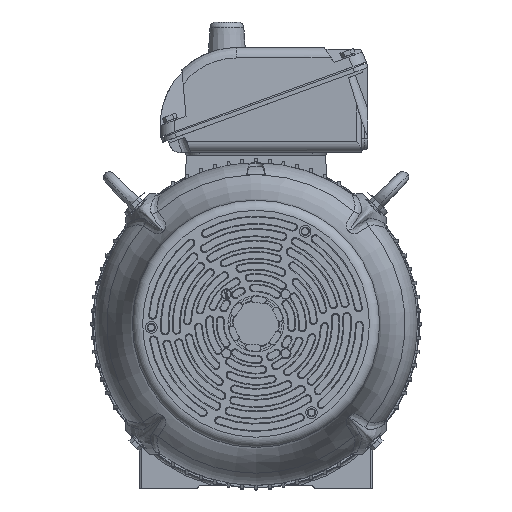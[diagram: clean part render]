
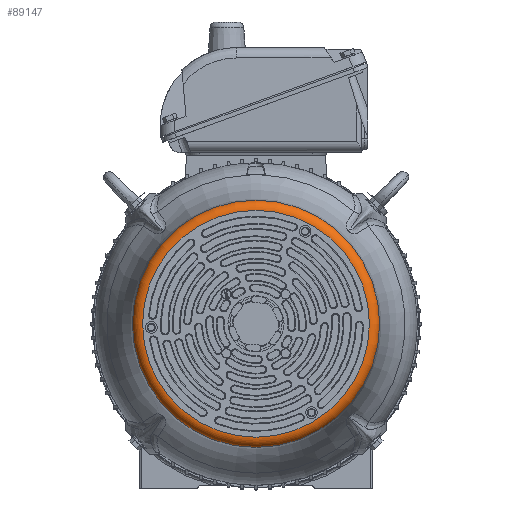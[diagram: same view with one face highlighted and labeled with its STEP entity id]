
A CAD part, top view. The second image highlights one B-rep face of the part: STEP entity #89147.
In plain terms, the highlighted toroidal (fillet/blend) face has major radius 156 mm and minor radius 14 mm.
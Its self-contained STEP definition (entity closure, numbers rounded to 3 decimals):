
#10550=TOROIDAL_SURFACE('',#95778,156.,14.);
#15191=FACE_OUTER_BOUND('',#20392,.T.);
#20392=EDGE_LOOP('',(#70559,#70560,#70561,#70562,#70563,#70564));
#35885=CIRCLE('',#95779,170.);
#35886=CIRCLE('',#95780,170.);
#35887=CIRCLE('',#95781,14.);
#35888=CIRCLE('',#95782,156.);
#35889=CIRCLE('',#95783,156.);
#42338=VERTEX_POINT('',#149373);
#42339=VERTEX_POINT('',#149374);
#42340=VERTEX_POINT('',#149377);
#42341=VERTEX_POINT('',#149379);
#52593=EDGE_CURVE('',#42338,#42339,#35885,.T.);
#52594=EDGE_CURVE('',#42339,#42338,#35886,.T.);
#52595=EDGE_CURVE('',#42339,#42340,#35887,.T.);
#52596=EDGE_CURVE('',#42340,#42341,#35888,.T.);
#52597=EDGE_CURVE('',#42341,#42340,#35889,.T.);
#70559=ORIENTED_EDGE('',*,*,#52593,.F.);
#70560=ORIENTED_EDGE('',*,*,#52594,.F.);
#70561=ORIENTED_EDGE('',*,*,#52595,.T.);
#70562=ORIENTED_EDGE('',*,*,#52596,.T.);
#70563=ORIENTED_EDGE('',*,*,#52597,.T.);
#70564=ORIENTED_EDGE('',*,*,#52595,.F.);
#89147=ADVANCED_FACE('',(#15191),#10550,.T.);
#95778=AXIS2_PLACEMENT_3D('',#149372,#110372,#110373);
#95779=AXIS2_PLACEMENT_3D('',#149375,#110374,#110375);
#95780=AXIS2_PLACEMENT_3D('',#149376,#110376,#110377);
#95781=AXIS2_PLACEMENT_3D('',#149378,#110378,#110379);
#95782=AXIS2_PLACEMENT_3D('',#149380,#110380,#110381);
#95783=AXIS2_PLACEMENT_3D('',#149381,#110382,#110383);
#110372=DIRECTION('center_axis',(0.,0.,
-1.));
#110373=DIRECTION('ref_axis',(0.,1.,0.));
#110374=DIRECTION('center_axis',(0.,0.,
-1.));
#110375=DIRECTION('ref_axis',(0.,1.,0.));
#110376=DIRECTION('center_axis',(0.,0.,
-1.));
#110377=DIRECTION('ref_axis',(0.,1.,0.));
#110378=DIRECTION('center_axis',(-1.,0.,0.));
#110379=DIRECTION('ref_axis',(0.,-1.,0.));
#110380=DIRECTION('center_axis',(0.,0.,
-1.));
#110381=DIRECTION('ref_axis',(0.,1.,0.));
#110382=DIRECTION('center_axis',(0.,0.,
-1.));
#110383=DIRECTION('ref_axis',(0.,1.,0.));
#149372=CARTESIAN_POINT('Origin',(0.,0.,
882.764));
#149373=CARTESIAN_POINT('',(0.,170.,882.764));
#149374=CARTESIAN_POINT('',(0.,-170.,882.764));
#149375=CARTESIAN_POINT('Origin',(0.,0.,
882.764));
#149376=CARTESIAN_POINT('Origin',(0.,0.,
882.764));
#149377=CARTESIAN_POINT('',(0.,-156.,896.764));
#149378=CARTESIAN_POINT('Origin',(0.,-156.,
882.764));
#149379=CARTESIAN_POINT('',(0.,156.,896.764));
#149380=CARTESIAN_POINT('Origin',(0.,0.,
896.764));
#149381=CARTESIAN_POINT('Origin',(0.,0.,
896.764));
